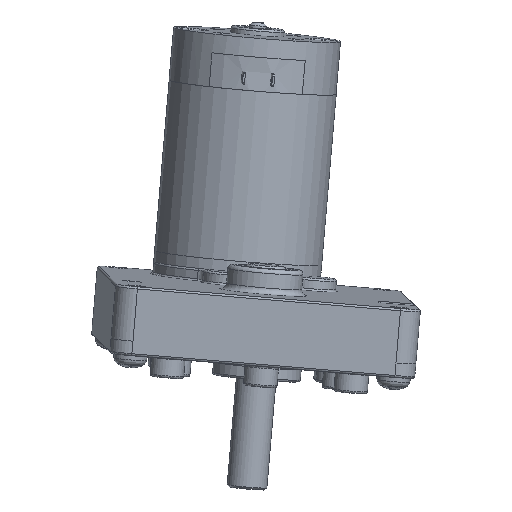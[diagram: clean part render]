
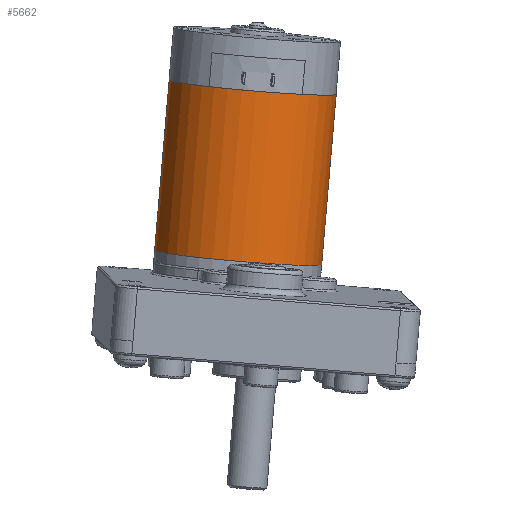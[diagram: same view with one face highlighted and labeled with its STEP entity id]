
A CAD part, front view. The second image highlights one B-rep face of the part: STEP entity #5662.
In plain terms, the highlighted cylindrical face has radius 20 mm (diameter 40 mm), a full revolution.
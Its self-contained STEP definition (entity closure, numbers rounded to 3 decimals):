
#1070=FACE_BOUND('',#2054,.T.);
#1458=FACE_OUTER_BOUND('',#2053,.T.);
#2053=EDGE_LOOP('',(#5162));
#2054=EDGE_LOOP('',(#5163));
#2479=CIRCLE('',#6476,20.);
#2480=CIRCLE('',#6477,20.);
#3006=VERTEX_POINT('',#10742);
#3007=VERTEX_POINT('',#10744);
#3728=EDGE_CURVE('',#3006,#3006,#2479,.T.);
#3729=EDGE_CURVE('',#3007,#3007,#2480,.T.);
#5162=ORIENTED_EDGE('',*,*,#3728,.T.);
#5163=ORIENTED_EDGE('',*,*,#3729,.F.);
#5279=CYLINDRICAL_SURFACE('',#6475,20.);
#5662=ADVANCED_FACE('',(#1458,#1070),#5279,.T.);
#6475=AXIS2_PLACEMENT_3D('',#10741,#8264,#8265);
#6476=AXIS2_PLACEMENT_3D('',#10743,#8266,#8267);
#6477=AXIS2_PLACEMENT_3D('',#10745,#8268,#8269);
#8264=DIRECTION('center_axis',(0.,0.,1.));
#8265=DIRECTION('ref_axis',(-1.,0.,0.));
#8266=DIRECTION('center_axis',(0.,0.,-1.));
#8267=DIRECTION('ref_axis',(-1.,0.,0.));
#8268=DIRECTION('center_axis',(0.,0.,-1.));
#8269=DIRECTION('ref_axis',(-1.,0.,0.));
#10741=CARTESIAN_POINT('Origin',(0.,0.,0.));
#10742=CARTESIAN_POINT('',(20.,0.,40.8));
#10743=CARTESIAN_POINT('Origin',(0.,0.,40.8));
#10744=CARTESIAN_POINT('',(20.,0.,0.));
#10745=CARTESIAN_POINT('Origin',(0.,0.,0.));
